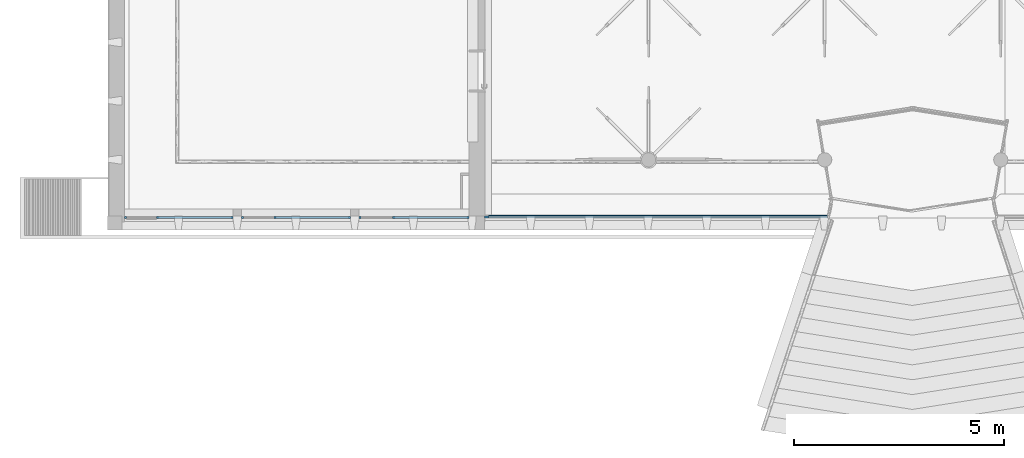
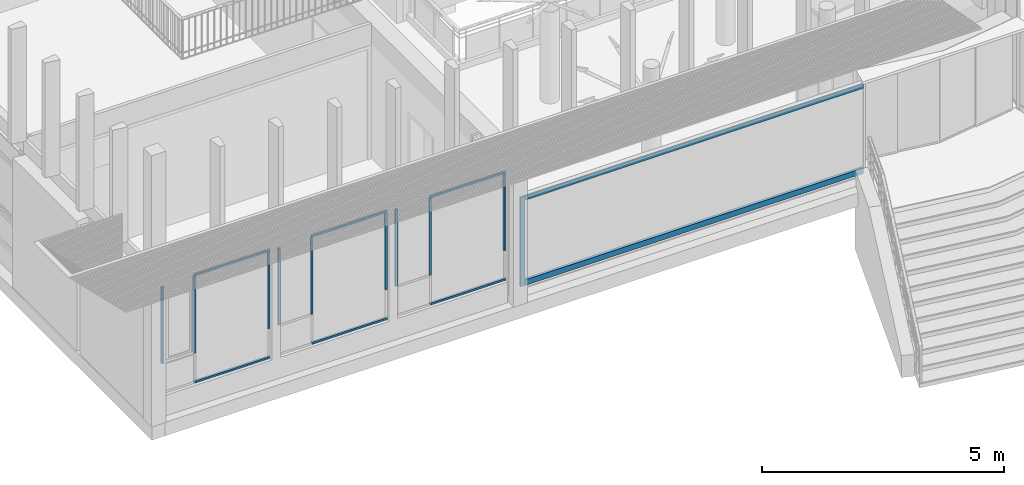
# One storey, part 4 of 65: 18 members, 4 elements without a shape of their own.
"""IFC4 building model written with IfcOpenShell, lengths in metres."""

from ifc_helpers import new_model, entity, si_unit, converted_unit, derived_unit, direction, frame, origin, place, context, subcontext, project, spatial, indexed_curve, outline, extrude, source, transform, mapped, material, type_object, type_shapes, element, aggregate, save


model = new_model("IFC4")

# Units and contexts
model_context = context("Model", 3, precision=1e-05, world=origin(), true_north=direction((6.12303176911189e-17, 1.0)))
body_context = subcontext(model_context, "Body", "Model", "MODEL_VIEW")
ifc_project = project(units=[si_unit("LENGTHUNIT", "METRE"), si_unit("AREAUNIT", "SQUARE_METRE"), si_unit("VOLUMEUNIT", "CUBIC_METRE"), converted_unit("PLANEANGLEUNIT", "DEGREE", entity("IfcRatioMeasure", 0.0174532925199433), si_unit("PLANEANGLEUNIT", "RADIAN"), dimensions=[0, 0, 0, 0, 0, 0, 0]), si_unit("MASSUNIT", "GRAM", prefix="KILO"), derived_unit("MASSDENSITYUNIT", [(si_unit("MASSUNIT", "GRAM", prefix="KILO"), 1), (si_unit("LENGTHUNIT", "METRE"), -3)]), derived_unit("MOMENTOFINERTIAUNIT", [(si_unit("LENGTHUNIT", "METRE"), 4)]), si_unit("TIMEUNIT", "SECOND"), si_unit("FREQUENCYUNIT", "HERTZ"), si_unit("THERMODYNAMICTEMPERATUREUNIT", "DEGREE_CELSIUS"), derived_unit("THERMALTRANSMITTANCEUNIT", [(si_unit("MASSUNIT", "GRAM", prefix="KILO"), 1), (si_unit("THERMODYNAMICTEMPERATUREUNIT", "KELVIN"), -1), (si_unit("TIMEUNIT", "SECOND"), -3)]), derived_unit("VOLUMETRICFLOWRATEUNIT", [(si_unit("LENGTHUNIT", "METRE"), 3), (si_unit("TIMEUNIT", "SECOND"), -1)]), si_unit("ELECTRICCURRENTUNIT", "AMPERE"), si_unit("ELECTRICVOLTAGEUNIT", "VOLT"), si_unit("POWERUNIT", "WATT"), si_unit("FORCEUNIT", "NEWTON", prefix="KILO"), si_unit("ILLUMINANCEUNIT", "LUX"), si_unit("LUMINOUSFLUXUNIT", "LUMEN"), si_unit("LUMINOUSINTENSITYUNIT", "CANDELA"), derived_unit("USERDEFINED", [(si_unit("MASSUNIT", "GRAM", prefix="KILO"), -1), (si_unit("LENGTHUNIT", "METRE"), -2), (si_unit("TIMEUNIT", "SECOND"), 3), (si_unit("LUMINOUSFLUXUNIT", "LUMEN"), 1)]), derived_unit("LINEARVELOCITYUNIT", [(si_unit("LENGTHUNIT", "METRE"), 1), (si_unit("TIMEUNIT", "SECOND"), -1)]), si_unit("PRESSUREUNIT", "PASCAL"), derived_unit("USERDEFINED", [(si_unit("LENGTHUNIT", "METRE"), -2), (si_unit("MASSUNIT", "GRAM", prefix="KILO"), 1), (si_unit("TIMEUNIT", "SECOND"), -2)]), derived_unit("LINEARFORCEUNIT", [(si_unit("MASSUNIT", "GRAM", prefix="KILO"), 1), (si_unit("LENGTHUNIT", "METRE"), 1), (si_unit("TIMEUNIT", "SECOND"), -2), (si_unit("LENGTHUNIT", "METRE"), -1)]), derived_unit("PLANARFORCEUNIT", [(si_unit("MASSUNIT", "GRAM", prefix="KILO"), 1), (si_unit("LENGTHUNIT", "METRE"), 1), (si_unit("TIMEUNIT", "SECOND"), -2), (si_unit("LENGTHUNIT", "METRE"), -2)])], contexts=[model_context])

# Site, building, storey
site_placement = place(None, origin())
site = spatial("IfcSite", under=ifc_project, at=site_placement, Name="Default", CompositionType="ELEMENT")
building_placement = place(site_placement, origin())
building = spatial("IfcBuilding", under=site, at=building_placement, Name="HOTEL CONSULAIRE BOULOGNE SUR MER", CompositionType="ELEMENT")
storey_placement = place(building_placement, origin())
storey = spatial("IfcBuildingStorey", under=building, at=storey_placement, Name="Niveau 0", CompositionType="ELEMENT", Elevation=1.31981936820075e-13)

# Curtain wall, members
curtain_wall_type = type_object("IfcCurtainWallType", Name="Mur-rideau:Simple panneau", PredefinedType="NOTDEFINED")
curtain_wall_1_placement = place(storey_placement, origin())
curtain_wall_1 = element("IfcCurtainWall", 1, at=curtain_wall_1_placement, inside=storey, type_object=curtain_wall_type, Name="Mur-rideau:Simple panneau", ObjectType="Mur-rideau:Simple panneau", PredefinedType="NOTDEFINED")
ifc_material = material(Name="PVC - Blanc", Category="Plastique")
member_type_1 = type_object("IfcMemberType", Name="Meneau rectangulaire:70x70", PredefinedType="MULLION", material=ifc_material)
shared_shape_1 = source(origin(), body_context, "Body", "SweptSolid", [
    extrude(outline(indexed_curve([(-0.035, -0.07), (0.035, -0.07), (0.035, 0.07), (-0.035, 0.07), (-0.035, -0.07)], self_intersect=False)), frame((-0.07, -0.02, -8.08520748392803), z_axis=(0.0, 0.0, 1.0), x_axis=(0.0, -1.0, 0.0)), (0.0, 0.0, 1.0), 8.08520748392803),
])
type_shapes(member_type_1, [shared_shape_1])
member_1_placement = place(storey_placement, frame((3.03622682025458, -29.5510671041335, 0.0), z_axis=(1.0, 0.0, 0.0), x_axis=(0.0, 0.0, -1.0)))
member_1 = element("IfcMember", 2, at=member_1_placement, type_object=member_type_1, material=ifc_material, Name="Meneau rectangulaire:70x70", ObjectType="Meneau rectangulaire:70x70", PredefinedType="MULLION", context=body_context, shape_type="MappedRepresentation", body=[
    mapped(shared_shape_1, transform((0.0, 0.0, 0.0), scale=1.0)),
])
member_type_2 = type_object("IfcMemberType", Name="Meneau rectangulaire:50 x 50 mm", PredefinedType="MULLION", material=ifc_material)
shared_shape_2 = source(origin(), body_context, "Body", "SweptSolid", [
    extrude(outline(indexed_curve([(-0.025, -0.05), (0.025, -0.05), (0.025, 0.05), (-0.025, 0.05), (-0.025, -0.05)], self_intersect=False)), frame((-0.05, -0.025, -8.08520748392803), z_axis=(0.0, 0.0, 1.0), x_axis=(0.0, -1.0, 0.0)), (0.0, 0.0, 1.0), 8.08520748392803),
])
type_shapes(member_type_2, [shared_shape_2])
member_2_placement = place(storey_placement, frame((-5.04898066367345, -29.5510671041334, 2.2499999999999), z_axis=(-1.0, 0.0, 0.0), x_axis=(0.0, 0.0, 1.0)))
member_2 = element("IfcMember", 3, at=member_2_placement, type_object=member_type_2, material=ifc_material, Name="Meneau rectangulaire:50 x 50 mm", ObjectType="Meneau rectangulaire:50 x 50 mm", PredefinedType="MULLION", context=body_context, shape_type="MappedRepresentation", body=[
    mapped(shared_shape_2, transform((0.0, 0.0, 0.0), scale=1.0)),
])
member_type_3 = type_object("IfcMemberType", Name="Meneau rectangulaire:50 x 50 mm", PredefinedType="MULLION", material=ifc_material)
shared_shape_3 = source(origin(), body_context, "Body", "SweptSolid", [
    extrude(outline(indexed_curve([(-0.025, -0.05), (0.025, -0.05), (0.025, 0.05), (-0.025, 0.05), (-0.025, -0.05)], self_intersect=False)), frame((-0.05, -0.025, -2.25), z_axis=(0.0, 0.0, 1.0), x_axis=(0.0, -1.0, 0.0)), (0.0, 0.0, 1.0), 2.25),
])
type_shapes(member_type_3, [shared_shape_3])
member_3_placement = place(storey_placement, frame((-5.14898066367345, -29.5510671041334, 0.0), z_axis=(0.0, 0.0, -1.0), x_axis=(-1.0, 0.0, 0.0)))
member_3 = element("IfcMember", 4, at=member_3_placement, type_object=member_type_3, material=ifc_material, Name="Meneau rectangulaire:50 x 50 mm", ObjectType="Meneau rectangulaire:50 x 50 mm", PredefinedType="MULLION", context=body_context, shape_type="MappedRepresentation", body=[
    mapped(shared_shape_3, transform((0.0, 0.0, 0.0), scale=1.0)),
])
aggregate(curtain_wall_1, [member_1, member_2, member_3])

# Curtain wall, member
curtain_wall_2_placement = place(storey_placement, origin())
curtain_wall_2 = element("IfcCurtainWall", 5, at=curtain_wall_2_placement, inside=storey, type_object=curtain_wall_type, Name="Mur-rideau:Simple panneau", ObjectType="Mur-rideau:Simple panneau", PredefinedType="NOTDEFINED")
member_type_4 = type_object("IfcMemberType", Name="Meneau rectangulaire:50 x 25mm", PredefinedType="MULLION", material=ifc_material)
shared_shape_4 = source(origin(), body_context, "Body", "SweptSolid", [
    extrude(outline(indexed_curve([(-0.025, -0.025), (0.025, -0.025), (0.025, 0.025), (-0.025, 0.025), (-0.025, -0.025)], self_intersect=False)), frame((-0.025, -0.025, -1.941), z_axis=(0.0, 0.0, 1.0), x_axis=(0.0, -1.0, 0.0)), (0.0, 0.0, 1.0), 1.941),
])
type_shapes(member_type_4, [shared_shape_4])
member_4_placement = place(storey_placement, frame((-13.7293496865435, -29.6140671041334, 3.0), z_axis=(0.0, 0.0, 1.0), x_axis=(-1.0, 0.0, 0.0)))
member_4 = element("IfcMember", 6, at=member_4_placement, type_object=member_type_4, material=ifc_material, Name="Meneau rectangulaire:50 x 25mm", ObjectType="Meneau rectangulaire:50 x 25mm", PredefinedType="MULLION", context=body_context, shape_type="MappedRepresentation", body=[
    mapped(shared_shape_4, transform((0.0, 0.0, 0.0), scale=1.0)),
])

curtain_wall_3_placement = place(storey_placement, origin())
curtain_wall_3 = element("IfcCurtainWall", 7, at=curtain_wall_3_placement, inside=storey, type_object=curtain_wall_type, Name="Mur-rideau:Simple panneau", ObjectType="Mur-rideau:Simple panneau", PredefinedType="NOTDEFINED")
member_5_placement = place(storey_placement, frame((-8.1414199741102, -29.6140671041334, 3.0), z_axis=(0.0, 0.0, 1.0), x_axis=(-1.0, 0.0, 0.0)))
member_5 = element("IfcMember", 8, at=member_5_placement, type_object=member_type_4, material=ifc_material, Name="Meneau rectangulaire:50 x 25mm", ObjectType="Meneau rectangulaire:50 x 25mm", PredefinedType="MULLION", context=body_context, shape_type="MappedRepresentation", body=[
    mapped(shared_shape_4, transform((0.0, 0.0, 0.0), scale=1.0)),
])

curtain_wall_4_placement = place(storey_placement, origin())
curtain_wall_4 = element("IfcCurtainWall", 9, at=curtain_wall_4_placement, inside=storey, type_object=curtain_wall_type, Name="Mur-rideau:Simple panneau", ObjectType="Mur-rideau:Simple panneau", PredefinedType="NOTDEFINED")
member_6_placement = place(storey_placement, frame((-10.9414199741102, -29.6140671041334, 3.0), z_axis=(0.0, 0.0, 1.0), x_axis=(-1.0, 0.0, 0.0)))
member_6 = element("IfcMember", 10, at=member_6_placement, type_object=member_type_4, material=ifc_material, Name="Meneau rectangulaire:50 x 25mm", ObjectType="Meneau rectangulaire:50 x 25mm", PredefinedType="MULLION", context=body_context, shape_type="MappedRepresentation", body=[
    mapped(shared_shape_4, transform((0.0, 0.0, 0.0), scale=1.0)),
])

# Member
member_type_5 = type_object("IfcMemberType", Name="Meneau rectangulaire:50 x 25mm", PredefinedType="MULLION", material=ifc_material)
shared_shape_5 = source(origin(), body_context, "Body", "SweptSolid", [
    extrude(outline(indexed_curve([(-0.025, -0.025), (0.025, -0.025), (0.025, 0.025), (-0.025, 0.025), (-0.025, -0.025)], self_intersect=False)), frame((-0.025, -0.025, -1.79856068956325), z_axis=(0.0, 0.0, 1.0), x_axis=(0.0, -1.0, 0.0)), (0.0, 0.0, 1.0), 1.79856068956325),
])
type_shapes(member_type_5, [shared_shape_5])
member_7_placement = place(storey_placement, frame((-11.1414199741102, -29.6140671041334, 3.0499999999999), z_axis=(1.0, 0.0, 0.0), x_axis=(0.0, 0.0, 1.0)))
member_7 = element("IfcMember", 11, at=member_7_placement, type_object=member_type_5, material=ifc_material, Name="Meneau rectangulaire:50 x 25mm", ObjectType="Meneau rectangulaire:50 x 25mm", PredefinedType="MULLION", context=body_context, shape_type="MappedRepresentation", body=[
    mapped(shared_shape_5, transform((0.0, 0.0, 0.0), scale=1.0)),
])

member_8_placement = place(storey_placement, frame((-5.50977317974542, -29.6140671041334, 3.0499999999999), z_axis=(1.0, 0.0, 0.0), x_axis=(0.0, 0.0, 1.0)))
member_8 = element("IfcMember", 12, at=member_8_placement, type_object=member_type_5, material=ifc_material, Name="Meneau rectangulaire:50 x 25mm", ObjectType="Meneau rectangulaire:50 x 25mm", PredefinedType="MULLION", context=body_context, shape_type="MappedRepresentation", body=[
    mapped(shared_shape_5, transform((0.0, 0.0, 0.0), scale=1.0)),
])

member_9_placement = place(storey_placement, frame((-8.3414199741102, -29.6140671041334, 3.0499999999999), z_axis=(1.0, 0.0, 0.0), x_axis=(0.0, 0.0, 1.0)))
member_9 = element("IfcMember", 13, at=member_9_placement, type_object=member_type_5, material=ifc_material, Name="Meneau rectangulaire:50 x 25mm", ObjectType="Meneau rectangulaire:50 x 25mm", PredefinedType="MULLION", context=body_context, shape_type="MappedRepresentation", body=[
    mapped(shared_shape_5, transform((0.0, 0.0, 0.0), scale=1.0)),
])

member_type_6 = type_object("IfcMemberType", Name="Meneau rectangulaire:50 x 25mm", PredefinedType="MULLION", material=ifc_material)
shared_shape_6 = source(origin(), body_context, "Body", "SweptSolid", [
    extrude(outline(indexed_curve([(-0.025, -0.025), (0.025, -0.025), (0.025, 0.025), (-0.025, 0.025), (-0.025, -0.025)], self_intersect=False)), frame((-0.025, -0.025, -1.79856068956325), z_axis=(0.0, 0.0, 1.0), x_axis=(0.0, -1.0, 0.0)), (0.0, 0.0, 1.0), 1.79856068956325),
])
type_shapes(member_type_6, [shared_shape_6])
member_10_placement = place(storey_placement, frame((-12.9399806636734, -29.6140671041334, 0.299999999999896), z_axis=(-1.0, 0.0, 0.0), x_axis=(0.0, 0.0, -1.0)))
member_10 = element("IfcMember", 14, at=member_10_placement, type_object=member_type_6, material=ifc_material, Name="Meneau rectangulaire:50 x 25mm", ObjectType="Meneau rectangulaire:50 x 25mm", PredefinedType="MULLION", context=body_context, shape_type="MappedRepresentation", body=[
    mapped(shared_shape_6, transform((0.0, 0.0, 0.0), scale=1.0)),
])

member_11_placement = place(storey_placement, frame((-7.30833386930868, -29.6140671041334, 0.299999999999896), z_axis=(-1.0, 0.0, 0.0), x_axis=(0.0, 0.0, -1.0)))
member_11 = element("IfcMember", 15, at=member_11_placement, type_object=member_type_6, material=ifc_material, Name="Meneau rectangulaire:50 x 25mm", ObjectType="Meneau rectangulaire:50 x 25mm", PredefinedType="MULLION", context=body_context, shape_type="MappedRepresentation", body=[
    mapped(shared_shape_6, transform((0.0, 0.0, 0.0), scale=1.0)),
])

member_12_placement = place(storey_placement, frame((-10.1399806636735, -29.6140671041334, 0.299999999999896), z_axis=(-1.0, 0.0, 0.0), x_axis=(0.0, 0.0, -1.0)))
member_12 = element("IfcMember", 16, at=member_12_placement, type_object=member_type_6, material=ifc_material, Name="Meneau rectangulaire:50 x 25mm", ObjectType="Meneau rectangulaire:50 x 25mm", PredefinedType="MULLION", context=body_context, shape_type="MappedRepresentation", body=[
    mapped(shared_shape_6, transform((0.0, 0.0, 0.0), scale=1.0)),
])

member_type_7 = type_object("IfcMemberType", Name="Meneau rectangulaire:50 x 25mm", PredefinedType="MULLION", material=ifc_material)
shared_shape_7 = source(origin(), body_context, "Body", "SweptSolid", [
    extrude(outline(indexed_curve([(-0.025, -0.025), (0.025, -0.025), (0.025, 0.025), (-0.025, 0.025), (-0.025, -0.025)], self_intersect=False)), frame((-0.025, -0.025, -1.941), z_axis=(0.0, 0.0, 1.0), x_axis=(0.0, -1.0, 0.0)), (0.0, 0.0, 1.0), 1.941),
])
type_shapes(member_type_7, [shared_shape_7])
member_13_placement = place(storey_placement, frame((-11.1414199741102, -29.6140671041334, 1.0589999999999), z_axis=(0.0, 0.0, -1.0), x_axis=(1.0, 0.0, 0.0)))
member_13 = element("IfcMember", 17, at=member_13_placement, type_object=member_type_7, material=ifc_material, Name="Meneau rectangulaire:50 x 25mm", ObjectType="Meneau rectangulaire:50 x 25mm", PredefinedType="MULLION", context=body_context, shape_type="MappedRepresentation", body=[
    mapped(shared_shape_7, transform((0.0, 0.0, 0.0), scale=1.0)),
])

member_14_placement = place(storey_placement, frame((-5.50977317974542, -29.6140671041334, 1.0589999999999), z_axis=(0.0, 0.0, -1.0), x_axis=(1.0, 0.0, 0.0)))
member_14 = element("IfcMember", 18, at=member_14_placement, type_object=member_type_7, material=ifc_material, Name="Meneau rectangulaire:50 x 25mm", ObjectType="Meneau rectangulaire:50 x 25mm", PredefinedType="MULLION", context=body_context, shape_type="MappedRepresentation", body=[
    mapped(shared_shape_7, transform((0.0, 0.0, 0.0), scale=1.0)),
])

member_15_placement = place(storey_placement, frame((-8.3414199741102, -29.6140671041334, 1.0589999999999), z_axis=(0.0, 0.0, -1.0), x_axis=(1.0, 0.0, 0.0)))
member_15 = element("IfcMember", 19, at=member_15_placement, type_object=member_type_7, material=ifc_material, Name="Meneau rectangulaire:50 x 25mm", ObjectType="Meneau rectangulaire:50 x 25mm", PredefinedType="MULLION", context=body_context, shape_type="MappedRepresentation", body=[
    mapped(shared_shape_7, transform((0.0, 0.0, 0.0), scale=1.0)),
])

member_type_8 = type_object("IfcMemberType", Name="Meneau rectangulaire:50 x 25mm", PredefinedType="MULLION", material=ifc_material)
shared_shape_8 = source(origin(), body_context, "Body", "SweptSolid", [
    extrude(outline(indexed_curve([(-0.025, -0.025), (0.025, -0.025), (0.025, 0.025), (-0.025, 0.025), (-0.025, -0.025)], self_intersect=False)), frame((0.0, -0.025, -1.941), z_axis=(0.0, 0.0, 1.0), x_axis=(0.0, -1.0, 0.0)), (0.0, 0.0, 1.0), 1.941),
])
type_shapes(member_type_8, [shared_shape_8])
member_16_placement = place(storey_placement, frame((-12.9399806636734, -29.6140671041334, 1.0589999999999), z_axis=(0.0, 0.0, -1.0), x_axis=(1.0, 0.0, 0.0)))
member_16 = element("IfcMember", 20, at=member_16_placement, type_object=member_type_8, material=ifc_material, Name="Meneau rectangulaire:50 x 25mm", ObjectType="Meneau rectangulaire:50 x 25mm", PredefinedType="MULLION", context=body_context, shape_type="MappedRepresentation", body=[
    mapped(shared_shape_8, transform((0.0, 0.0, 0.0), scale=1.0)),
])

aggregate(curtain_wall_2, [member_4, member_7, member_10, member_13, member_16])

member_17_placement = place(storey_placement, frame((-7.30833386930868, -29.6140671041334, 1.0589999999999), z_axis=(0.0, 0.0, -1.0), x_axis=(1.0, 0.0, 0.0)))
member_17 = element("IfcMember", 21, at=member_17_placement, type_object=member_type_8, material=ifc_material, Name="Meneau rectangulaire:50 x 25mm", ObjectType="Meneau rectangulaire:50 x 25mm", PredefinedType="MULLION", context=body_context, shape_type="MappedRepresentation", body=[
    mapped(shared_shape_8, transform((0.0, 0.0, 0.0), scale=1.0)),
])

aggregate(curtain_wall_3, [member_5, member_8, member_11, member_14, member_17])

member_18_placement = place(storey_placement, frame((-10.1399806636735, -29.6140671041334, 1.0589999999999), z_axis=(0.0, 0.0, -1.0), x_axis=(1.0, 0.0, 0.0)))
member_18 = element("IfcMember", 22, at=member_18_placement, type_object=member_type_8, material=ifc_material, Name="Meneau rectangulaire:50 x 25mm", ObjectType="Meneau rectangulaire:50 x 25mm", PredefinedType="MULLION", context=body_context, shape_type="MappedRepresentation", body=[
    mapped(shared_shape_8, transform((0.0, 0.0, 0.0), scale=1.0)),
])

aggregate(curtain_wall_4, [member_6, member_9, member_12, member_15, member_18])

save(model, "model.ifc")
